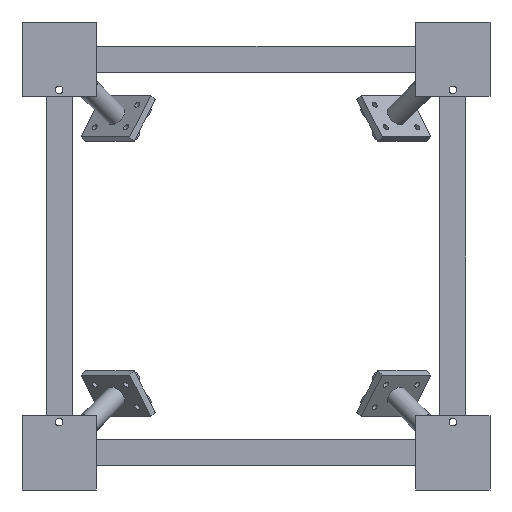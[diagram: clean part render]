
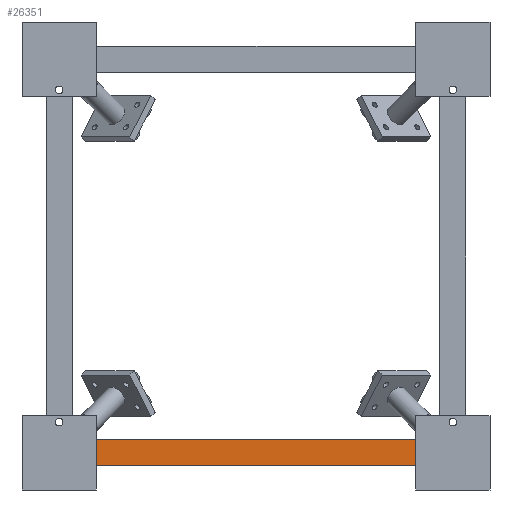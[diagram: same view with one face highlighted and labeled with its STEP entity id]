
A CAD part, front view. The second image highlights one B-rep face of the part: STEP entity #26351.
In plain terms, the highlighted planar face has unit normal (0, -1, 0).
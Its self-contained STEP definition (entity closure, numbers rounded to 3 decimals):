
#26235 = EDGE_CURVE('',#26236,#26238,#26240,.T.);
#26236 = VERTEX_POINT('',#26237);
#26237 = CARTESIAN_POINT('',(-82.,-96.,-96.));
#26238 = VERTEX_POINT('',#26239);
#26239 = CARTESIAN_POINT('',(-82.,-96.,-84.));
#26240 = SURFACE_CURVE('',#26241,(#26245,#26257),.PCURVE_S1.);
#26241 = LINE('',#26242,#26243);
#26242 = CARTESIAN_POINT('',(-82.,-96.,-96.));
#26243 = VECTOR('',#26244,1.);
#26244 = DIRECTION('',(0.,0.,1.));
#26245 = PCURVE('',#26246,#26251);
#26246 = PLANE('',#26247);
#26247 = AXIS2_PLACEMENT_3D('',#26248,#26249,#26250);
#26248 = CARTESIAN_POINT('',(-82.,-96.,-96.));
#26249 = DIRECTION('',(1.,0.,0.));
#26250 = DIRECTION('',(0.,0.,1.));
#26251 = DEFINITIONAL_REPRESENTATION('',(#26252),#26256);
#26252 = LINE('',#26253,#26254);
#26253 = CARTESIAN_POINT('',(0.,0.));
#26254 = VECTOR('',#26255,1.);
#26255 = DIRECTION('',(1.,0.));
#26256 = ( GEOMETRIC_REPRESENTATION_CONTEXT(2) 
PARAMETRIC_REPRESENTATION_CONTEXT() REPRESENTATION_CONTEXT('2D SPACE',''
  ) );
#26257 = PCURVE('',#26258,#26263);
#26258 = PLANE('',#26259);
#26259 = AXIS2_PLACEMENT_3D('',#26260,#26261,#26262);
#26260 = CARTESIAN_POINT('',(-82.,-96.,-96.));
#26261 = DIRECTION('',(0.,1.,0.));
#26262 = DIRECTION('',(0.,0.,1.));
#26263 = DEFINITIONAL_REPRESENTATION('',(#26264),#26268);
#26264 = LINE('',#26265,#26266);
#26265 = CARTESIAN_POINT('',(0.,0.));
#26266 = VECTOR('',#26267,1.);
#26267 = DIRECTION('',(1.,0.));
#26268 = ( GEOMETRIC_REPRESENTATION_CONTEXT(2) 
PARAMETRIC_REPRESENTATION_CONTEXT() REPRESENTATION_CONTEXT('2D SPACE',''
  ) );
#26286 = PLANE('',#26287);
#26287 = AXIS2_PLACEMENT_3D('',#26288,#26289,#26290);
#26288 = CARTESIAN_POINT('',(-82.,-96.,-96.));
#26289 = DIRECTION('',(0.,0.,1.));
#26290 = DIRECTION('',(1.,0.,0.));
#26340 = PLANE('',#26341);
#26341 = AXIS2_PLACEMENT_3D('',#26342,#26343,#26344);
#26342 = CARTESIAN_POINT('',(-82.,-96.,-84.));
#26343 = DIRECTION('',(0.,0.,1.));
#26344 = DIRECTION('',(1.,0.,0.));
#26351 = ADVANCED_FACE('',(#26352),#26258,.F.);
#26352 = FACE_BOUND('',#26353,.F.);
#26353 = EDGE_LOOP('',(#26354,#26377,#26378,#26401));
#26354 = ORIENTED_EDGE('',*,*,#26355,.F.);
#26355 = EDGE_CURVE('',#26236,#26356,#26358,.T.);
#26356 = VERTEX_POINT('',#26357);
#26357 = CARTESIAN_POINT('',(82.,-96.,-96.));
#26358 = SURFACE_CURVE('',#26359,(#26363,#26370),.PCURVE_S1.);
#26359 = LINE('',#26360,#26361);
#26360 = CARTESIAN_POINT('',(-82.,-96.,-96.));
#26361 = VECTOR('',#26362,1.);
#26362 = DIRECTION('',(1.,0.,0.));
#26363 = PCURVE('',#26258,#26364);
#26364 = DEFINITIONAL_REPRESENTATION('',(#26365),#26369);
#26365 = LINE('',#26366,#26367);
#26366 = CARTESIAN_POINT('',(0.,0.));
#26367 = VECTOR('',#26368,1.);
#26368 = DIRECTION('',(0.,1.));
#26369 = ( GEOMETRIC_REPRESENTATION_CONTEXT(2) 
PARAMETRIC_REPRESENTATION_CONTEXT() REPRESENTATION_CONTEXT('2D SPACE',''
  ) );
#26370 = PCURVE('',#26286,#26371);
#26371 = DEFINITIONAL_REPRESENTATION('',(#26372),#26376);
#26372 = LINE('',#26373,#26374);
#26373 = CARTESIAN_POINT('',(0.,0.));
#26374 = VECTOR('',#26375,1.);
#26375 = DIRECTION('',(1.,0.));
#26376 = ( GEOMETRIC_REPRESENTATION_CONTEXT(2) 
PARAMETRIC_REPRESENTATION_CONTEXT() REPRESENTATION_CONTEXT('2D SPACE',''
  ) );
#26377 = ORIENTED_EDGE('',*,*,#26235,.T.);
#26378 = ORIENTED_EDGE('',*,*,#26379,.T.);
#26379 = EDGE_CURVE('',#26238,#26380,#26382,.T.);
#26380 = VERTEX_POINT('',#26381);
#26381 = CARTESIAN_POINT('',(82.,-96.,-84.));
#26382 = SURFACE_CURVE('',#26383,(#26387,#26394),.PCURVE_S1.);
#26383 = LINE('',#26384,#26385);
#26384 = CARTESIAN_POINT('',(-82.,-96.,-84.));
#26385 = VECTOR('',#26386,1.);
#26386 = DIRECTION('',(1.,0.,0.));
#26387 = PCURVE('',#26258,#26388);
#26388 = DEFINITIONAL_REPRESENTATION('',(#26389),#26393);
#26389 = LINE('',#26390,#26391);
#26390 = CARTESIAN_POINT('',(12.,0.));
#26391 = VECTOR('',#26392,1.);
#26392 = DIRECTION('',(0.,1.));
#26393 = ( GEOMETRIC_REPRESENTATION_CONTEXT(2) 
PARAMETRIC_REPRESENTATION_CONTEXT() REPRESENTATION_CONTEXT('2D SPACE',''
  ) );
#26394 = PCURVE('',#26340,#26395);
#26395 = DEFINITIONAL_REPRESENTATION('',(#26396),#26400);
#26396 = LINE('',#26397,#26398);
#26397 = CARTESIAN_POINT('',(0.,0.));
#26398 = VECTOR('',#26399,1.);
#26399 = DIRECTION('',(1.,0.));
#26400 = ( GEOMETRIC_REPRESENTATION_CONTEXT(2) 
PARAMETRIC_REPRESENTATION_CONTEXT() REPRESENTATION_CONTEXT('2D SPACE',''
  ) );
#26401 = ORIENTED_EDGE('',*,*,#26402,.F.);
#26402 = EDGE_CURVE('',#26356,#26380,#26403,.T.);
#26403 = SURFACE_CURVE('',#26404,(#26408,#26415),.PCURVE_S1.);
#26404 = LINE('',#26405,#26406);
#26405 = CARTESIAN_POINT('',(82.,-96.,-96.));
#26406 = VECTOR('',#26407,1.);
#26407 = DIRECTION('',(0.,0.,1.));
#26408 = PCURVE('',#26258,#26409);
#26409 = DEFINITIONAL_REPRESENTATION('',(#26410),#26414);
#26410 = LINE('',#26411,#26412);
#26411 = CARTESIAN_POINT('',(0.,164.));
#26412 = VECTOR('',#26413,1.);
#26413 = DIRECTION('',(1.,0.));
#26414 = ( GEOMETRIC_REPRESENTATION_CONTEXT(2) 
PARAMETRIC_REPRESENTATION_CONTEXT() REPRESENTATION_CONTEXT('2D SPACE',''
  ) );
#26415 = PCURVE('',#26416,#26421);
#26416 = PLANE('',#26417);
#26417 = AXIS2_PLACEMENT_3D('',#26418,#26419,#26420);
#26418 = CARTESIAN_POINT('',(82.,-96.,-96.));
#26419 = DIRECTION('',(1.,0.,0.));
#26420 = DIRECTION('',(0.,0.,1.));
#26421 = DEFINITIONAL_REPRESENTATION('',(#26422),#26426);
#26422 = LINE('',#26423,#26424);
#26423 = CARTESIAN_POINT('',(0.,0.));
#26424 = VECTOR('',#26425,1.);
#26425 = DIRECTION('',(1.,0.));
#26426 = ( GEOMETRIC_REPRESENTATION_CONTEXT(2) 
PARAMETRIC_REPRESENTATION_CONTEXT() REPRESENTATION_CONTEXT('2D SPACE',''
  ) );
